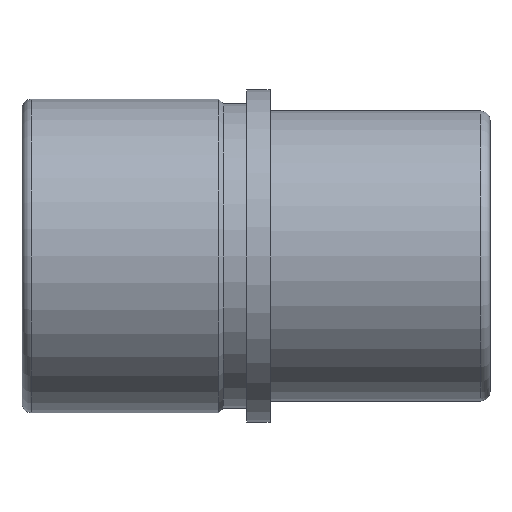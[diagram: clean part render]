
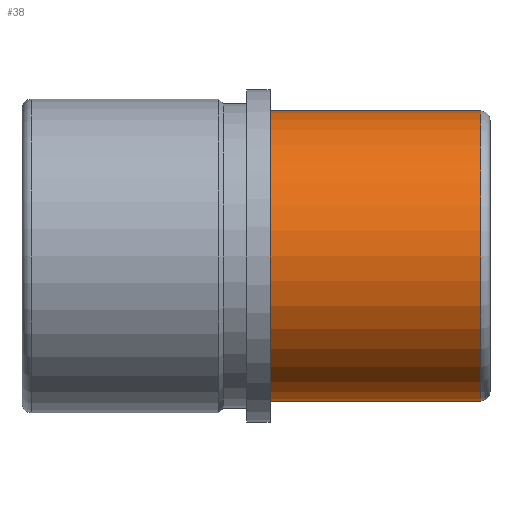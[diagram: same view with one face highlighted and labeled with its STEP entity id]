
A CAD part, front view. The second image highlights one B-rep face of the part: STEP entity #38.
In plain terms, the highlighted cylindrical face has radius 31 mm (diameter 62 mm), a full revolution.
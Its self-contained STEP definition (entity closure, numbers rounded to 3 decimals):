
#38 = ADVANCED_FACE( '', ( #83, #84 ), #85, .T. );
#83 = FACE_OUTER_BOUND( '', #146, .T. );
#84 = FACE_OUTER_BOUND( '', #147, .T. );
#85 = CYLINDRICAL_SURFACE( '', #148, 31. );
#146 = EDGE_LOOP( '', ( #203 ) );
#147 = EDGE_LOOP( '', ( #204 ) );
#148 = AXIS2_PLACEMENT_3D( '', #205, #206, #207 );
#203 = ORIENTED_EDGE( '', *, *, #287, .T. );
#204 = ORIENTED_EDGE( '', *, *, #288, .F. );
#205 = CARTESIAN_POINT( '', ( 47., 0., 0. ) );
#206 = DIRECTION( '', ( -1., 0., 0. ) );
#207 = DIRECTION( '', ( 0., 0., -1. ) );
#287 = EDGE_CURVE( '', #315, #315, #316, .T. );
#288 = EDGE_CURVE( '', #317, #317, #318, .T. );
#315 = VERTEX_POINT( '', #357 );
#316 = CIRCLE( '', #358, 31. );
#317 = VERTEX_POINT( '', #359 );
#318 = CIRCLE( '', #360, 31. );
#357 = CARTESIAN_POINT( '', ( 0., 0., -31. ) );
#358 = AXIS2_PLACEMENT_3D( '', #398, #399, #400 );
#359 = CARTESIAN_POINT( '', ( 45., 0., -31. ) );
#360 = AXIS2_PLACEMENT_3D( '', #401, #402, #403 );
#398 = CARTESIAN_POINT( '', ( 0., 0., 0. ) );
#399 = DIRECTION( '', ( 1., 0., 0. ) );
#400 = DIRECTION( '', ( 0., 0., -1. ) );
#401 = CARTESIAN_POINT( '', ( 45., 0., 0. ) );
#402 = DIRECTION( '', ( 1., 0., 0. ) );
#403 = DIRECTION( '', ( 0., 0., -1. ) );
